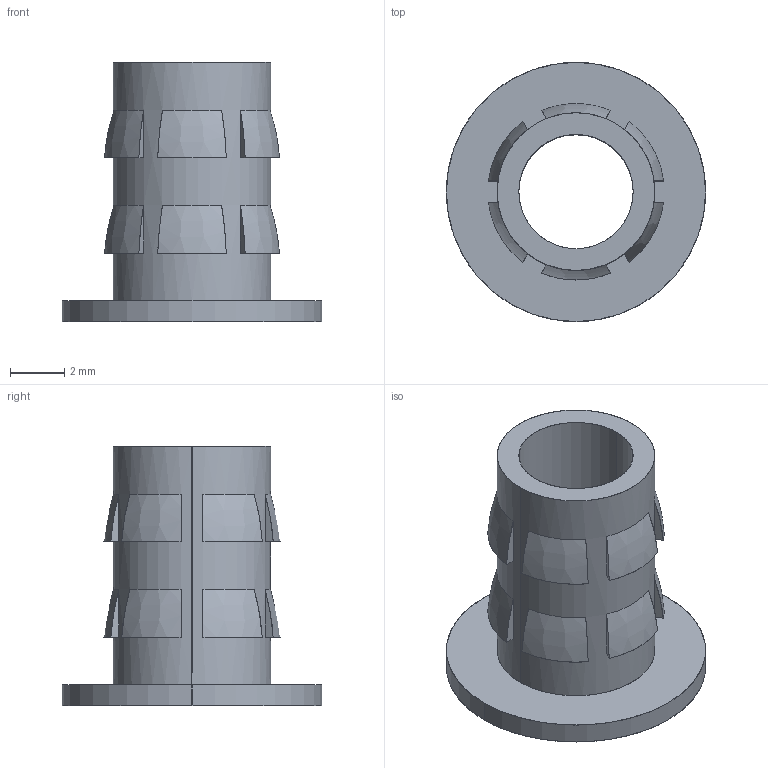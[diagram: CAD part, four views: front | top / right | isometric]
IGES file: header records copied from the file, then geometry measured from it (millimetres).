
Start section: SolidWorks IGES file using analytic representation for surfaces
Global section: file name: G:\thermofab project\INSERT\insert project\INSERT 3D\flanged insert M5.IGS; native system: SolidWorks 2015; preprocessor: SolidWorks 2015; author: Administrator; date: 170809.123213; units: millimetre
Bounding box: 9.53 x 9.53 x 9.53 mm (x, y, z)
Surface area: 441.2 mm2 (no closed solid volume)
Topology: 0 solids, 0 shells, 59 faces, 536 edges, 536 vertices
Faces by surface type: bspline 51, revolution 8
